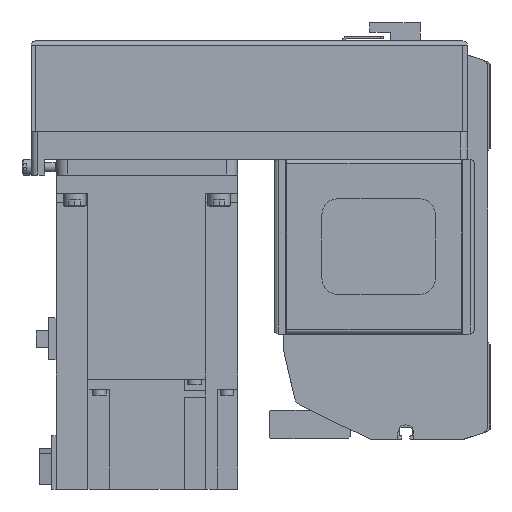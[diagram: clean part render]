
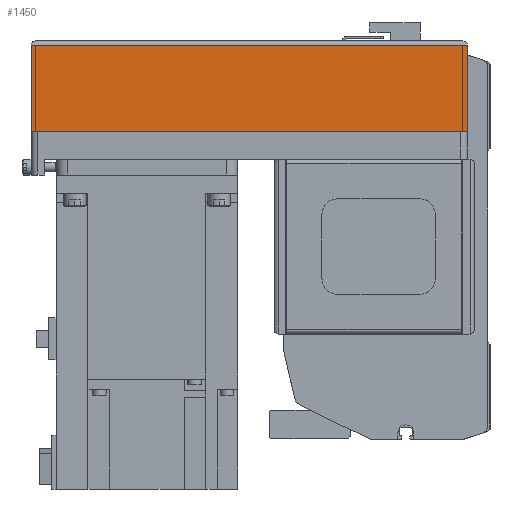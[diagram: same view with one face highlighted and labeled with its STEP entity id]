
A CAD part, left-side view. The second image highlights one B-rep face of the part: STEP entity #1450.
In plain terms, the highlighted planar face has unit normal (-1, 0, 0) as drawn and (0, 1, 0) by its records, which use the part's own axes.
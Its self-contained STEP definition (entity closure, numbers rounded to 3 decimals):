
#1450 = ADVANCED_FACE( '', ( #3681 ), #3682, .T. );
#3681 = FACE_OUTER_BOUND( '', #6927, .T. );
#3682 = PLANE( '', #6928 );
#6927 = EDGE_LOOP( '', ( #11071, #11072, #11073, #11074 ) );
#6928 = AXIS2_PLACEMENT_3D( '', #11075, #11076, #11077 );
#11071 = ORIENTED_EDGE( '', *, *, #19435, .F. );
#11072 = ORIENTED_EDGE( '', *, *, #19436, .F. );
#11073 = ORIENTED_EDGE( '', *, *, #19437, .T. );
#11074 = ORIENTED_EDGE( '', *, *, #19438, .T. );
#11075 = CARTESIAN_POINT( '', ( -192., 40., -50. ) );
#11076 = DIRECTION( '', ( 0., 1., 0. ) );
#11077 = DIRECTION( '', ( 0., 0., 1. ) );
#19435 = EDGE_CURVE( '', #23575, #23576, #23577, .T. );
#19436 = EDGE_CURVE( '', #23578, #23575, #23579, .T. );
#19437 = EDGE_CURVE( '', #23578, #23580, #23581, .T. );
#19438 = EDGE_CURVE( '', #23580, #23576, #23582, .T. );
#23575 = VERTEX_POINT( '', #29420 );
#23576 = VERTEX_POINT( '', #29421 );
#23577 = LINE( '', #29422, #29423 );
#23578 = VERTEX_POINT( '', #29424 );
#23579 = LINE( '', #29425, #29426 );
#23580 = VERTEX_POINT( '', #29427 );
#23581 = LINE( '', #29428, #29429 );
#23582 = LINE( '', #29430, #29431 );
#29420 = CARTESIAN_POINT( '', ( 0., 40., -50. ) );
#29421 = CARTESIAN_POINT( '', ( 0., 40., -12.1 ) );
#29422 = CARTESIAN_POINT( '', ( 0., 40., -50. ) );
#29423 = VECTOR( '', #35798, 1000. );
#29424 = CARTESIAN_POINT( '', ( -192., 40., -50. ) );
#29425 = CARTESIAN_POINT( '', ( -192., 40., -50. ) );
#29426 = VECTOR( '', #35799, 1000. );
#29427 = CARTESIAN_POINT( '', ( -192., 40., -12.1 ) );
#29428 = CARTESIAN_POINT( '', ( -192., 40., -50. ) );
#29429 = VECTOR( '', #35800, 1000. );
#29430 = CARTESIAN_POINT( '', ( -192., 40., -12.1 ) );
#29431 = VECTOR( '', #35801, 1000. );
#35798 = DIRECTION( '', ( 0., 0., 1. ) );
#35799 = DIRECTION( '', ( 1., 0., 0. ) );
#35800 = DIRECTION( '', ( 0., 0., 1. ) );
#35801 = DIRECTION( '', ( 1., 0., 0. ) );
